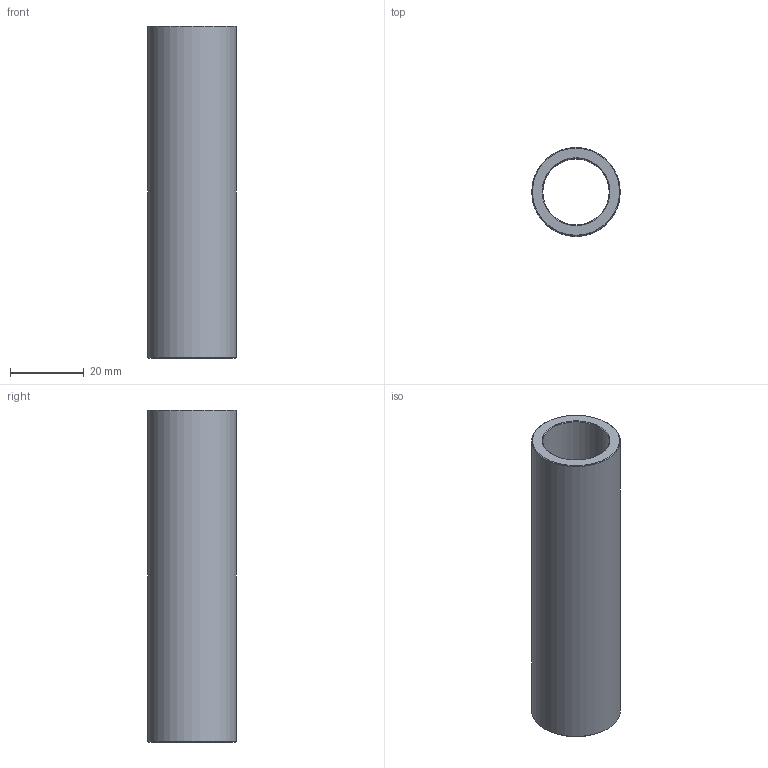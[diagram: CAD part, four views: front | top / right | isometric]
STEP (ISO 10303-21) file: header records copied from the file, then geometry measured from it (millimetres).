
FILE_DESCRIPTION(('STEP AP203'),'1');
FILE_NAME('C:/Users/Rodrigo/Desktop/GA3.018.090-1.step','2016-11-07T13:03:33',(' '),(' '),'Spatial InterOp 3D',' ',' ');
FILE_SCHEMA(('CONFIG_CONTROL_DESIGN'));
Length unit declared in the file: millimetre
Products named in the file (1): 1
Bounding box: 24 x 24 x 90 mm (x, y, z)
Volume: 17807.6 mm3; surface area: 12240.1 mm2
Topology: 1 solids, 1 shells, 8 faces, 14 edges, 8 vertices
Faces by surface type: cone 4, cylinder 2, plane 2
Full cylindrical faces by diameter (mm): 18 x1, 24 x1
Entity records: 212 total; most frequent: DIRECTION 34, CARTESIAN_POINT 25, AXIS2_PLACEMENT_3D 17, EDGE_LOOP 16, ORIENTED_EDGE 16, FACE_OUTER_BOUND 10, ADVANCED_FACE 8, EDGE_CURVE 8
